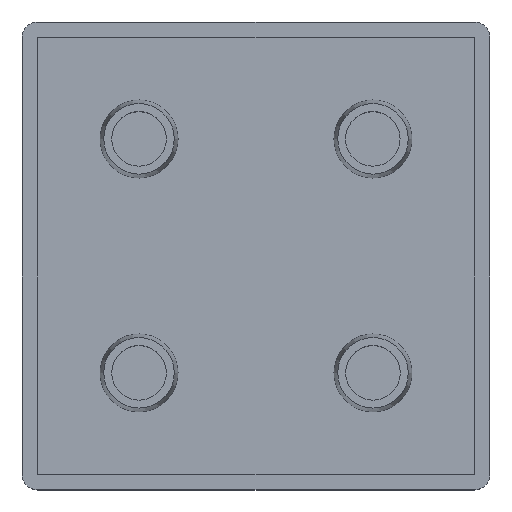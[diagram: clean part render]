
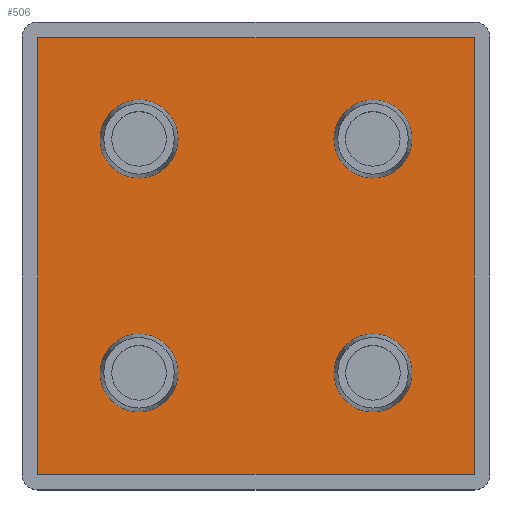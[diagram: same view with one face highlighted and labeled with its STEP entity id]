
A CAD part, top view. The second image highlights one B-rep face of the part: STEP entity #506.
In plain terms, the highlighted planar face has unit normal (0, 0, 1).
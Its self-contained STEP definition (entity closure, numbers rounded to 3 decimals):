
#15=FACE_BOUND('',#103,.T.);
#16=FACE_BOUND('',#104,.T.);
#17=FACE_BOUND('',#105,.T.);
#18=FACE_BOUND('',#106,.T.);
#24=PLANE('',#581);
#67=FACE_OUTER_BOUND('',#102,.T.);
#102=EDGE_LOOP('',(#402,#403,#404,#405));
#103=EDGE_LOOP('',(#406));
#104=EDGE_LOOP('',(#407));
#105=EDGE_LOOP('',(#408));
#106=EDGE_LOOP('',(#409));
#146=LINE('',#848,#186);
#147=LINE('',#850,#187);
#148=LINE('',#852,#188);
#149=LINE('',#853,#189);
#186=VECTOR('',#692,1000.);
#187=VECTOR('',#693,1000.);
#188=VECTOR('',#694,1000.);
#189=VECTOR('',#695,1000.);
#230=CIRCLE('',#574,5.);
#231=CIRCLE('',#576,5.);
#232=CIRCLE('',#578,5.);
#233=CIRCLE('',#580,5.);
#258=VERTEX_POINT('',#830);
#259=VERTEX_POINT('',#834);
#260=VERTEX_POINT('',#838);
#261=VERTEX_POINT('',#842);
#262=VERTEX_POINT('',#846);
#263=VERTEX_POINT('',#847);
#264=VERTEX_POINT('',#849);
#265=VERTEX_POINT('',#851);
#310=EDGE_CURVE('',#258,#258,#230,.T.);
#312=EDGE_CURVE('',#259,#259,#231,.T.);
#314=EDGE_CURVE('',#260,#260,#232,.T.);
#316=EDGE_CURVE('',#261,#261,#233,.T.);
#318=EDGE_CURVE('',#262,#263,#146,.T.);
#319=EDGE_CURVE('',#263,#264,#147,.T.);
#320=EDGE_CURVE('',#264,#265,#148,.T.);
#321=EDGE_CURVE('',#265,#262,#149,.T.);
#402=ORIENTED_EDGE('',*,*,#318,.T.);
#403=ORIENTED_EDGE('',*,*,#319,.T.);
#404=ORIENTED_EDGE('',*,*,#320,.T.);
#405=ORIENTED_EDGE('',*,*,#321,.T.);
#406=ORIENTED_EDGE('',*,*,#314,.F.);
#407=ORIENTED_EDGE('',*,*,#310,.F.);
#408=ORIENTED_EDGE('',*,*,#312,.F.);
#409=ORIENTED_EDGE('',*,*,#316,.F.);
#506=ADVANCED_FACE('',(#67,#15,#16,#17,#18),#24,.T.);
#574=AXIS2_PLACEMENT_3D('',#831,#672,#673);
#576=AXIS2_PLACEMENT_3D('',#835,#677,#678);
#578=AXIS2_PLACEMENT_3D('',#839,#682,#683);
#580=AXIS2_PLACEMENT_3D('',#843,#687,#688);
#581=AXIS2_PLACEMENT_3D('',#845,#690,#691);
#672=DIRECTION('center_axis',(0.,0.,1.));
#673=DIRECTION('ref_axis',(1.,0.,0.));
#677=DIRECTION('center_axis',(0.,0.,1.));
#678=DIRECTION('ref_axis',(1.,0.,0.));
#682=DIRECTION('center_axis',(0.,0.,1.));
#683=DIRECTION('ref_axis',(1.,0.,0.));
#687=DIRECTION('center_axis',(0.,0.,1.));
#688=DIRECTION('ref_axis',(1.,0.,0.));
#690=DIRECTION('center_axis',(0.,0.,1.));
#691=DIRECTION('ref_axis',(1.,0.,0.));
#692=DIRECTION('',(0.,-1.,0.));
#693=DIRECTION('',(1.,0.,0.));
#694=DIRECTION('',(0.,1.,0.));
#695=DIRECTION('',(-1.,0.,0.));
#830=CARTESIAN_POINT('',(9.55,1.908,3.));
#831=CARTESIAN_POINT('Origin',(4.55,1.908,3.));
#834=CARTESIAN_POINT('',(9.55,-28.092,3.));
#835=CARTESIAN_POINT('Origin',(4.55,-28.092,3.));
#838=CARTESIAN_POINT('',(-20.45,-28.092,3.));
#839=CARTESIAN_POINT('Origin',(-25.45,-28.092,3.));
#842=CARTESIAN_POINT('',(-20.45,1.908,3.));
#843=CARTESIAN_POINT('Origin',(-25.45,1.908,3.));
#845=CARTESIAN_POINT('Origin',(-38.45,-41.092,3.));
#846=CARTESIAN_POINT('',(-38.45,14.908,3.));
#847=CARTESIAN_POINT('',(-38.45,-41.092,3.));
#848=CARTESIAN_POINT('',(-38.45,14.908,3.));
#849=CARTESIAN_POINT('',(17.55,-41.092,3.));
#850=CARTESIAN_POINT('',(-38.45,-41.092,3.));
#851=CARTESIAN_POINT('',(17.55,14.908,3.));
#852=CARTESIAN_POINT('',(17.55,14.908,3.));
#853=CARTESIAN_POINT('',(-38.45,14.908,3.));
